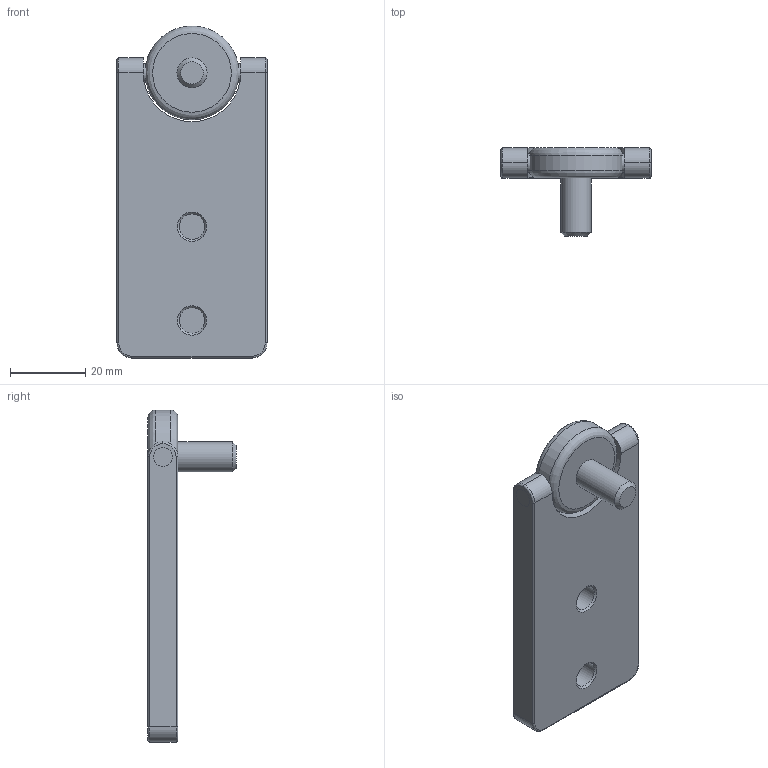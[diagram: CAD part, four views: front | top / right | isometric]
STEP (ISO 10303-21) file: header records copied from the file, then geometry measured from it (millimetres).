
FILE_DESCRIPTION(('STEP AP203'),'2;1');
FILE_NAME('60090.stp','2014-05-27T14:16:51',(''),(''),'2008.1.107','THINKDESIGN','');
FILE_SCHEMA(('CONFIG_CONTROL_DESIGN'));
Length unit declared in the file: millimetre
Bounding box: 40 x 23.5 x 88.5 mm (x, y, z)
Volume: 27307.5 mm3; surface area: 10461 mm2
Topology: 4 solids, 4 shells, 46 faces, 100 edges, 64 vertices
Faces by surface type: cylinder 18, plane 15, bspline 13
Full cylindrical faces by diameter (mm): 5 x1, 6.8 x2, 8 x1, 25 x1
Entity records: 2457 total; most frequent: CARTESIAN_POINT 1331, DIRECTION 234, ORIENTED_EDGE 200, AXIS2_PLACEMENT_3D 101, EDGE_CURVE 100, CIRCLE 68, VERTEX_POINT 64, EDGE_LOOP 48
